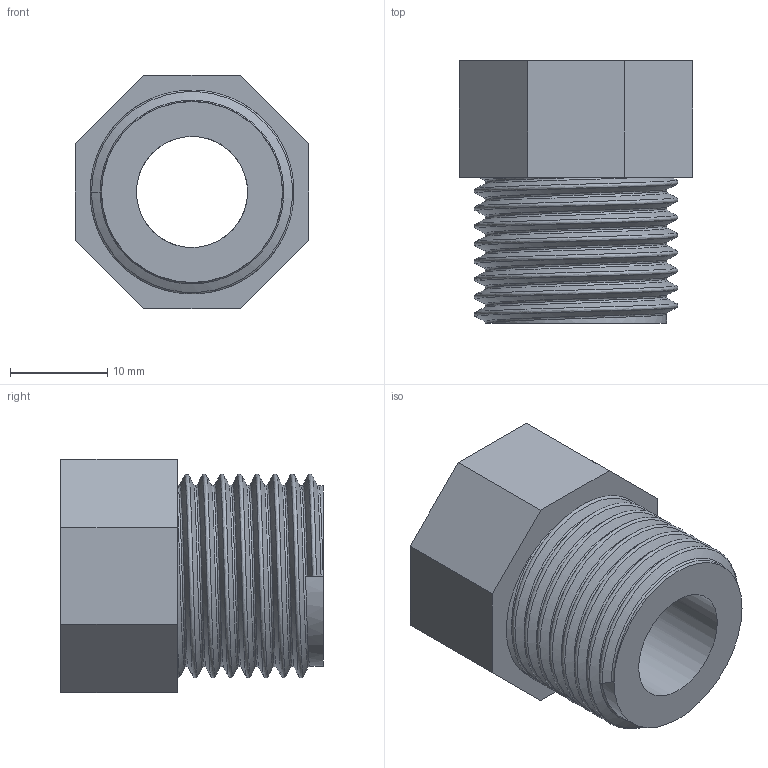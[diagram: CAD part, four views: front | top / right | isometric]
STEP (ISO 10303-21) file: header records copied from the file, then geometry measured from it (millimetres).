
FILE_DESCRIPTION(/* description */ ('PVC riduzione filettata BSP maschio-femmina'),/* implementation_level */ '2;1');
FILE_NAME(/* name */ 'C:\Users\POLYPIPE\Desktop\DATASET INVENTOR\LIBRERIA EFFAST\RACCORDI 3DxWEB\RER\3D_RERRCE\3D_RERRCE020A.stp',/* time_stamp */ '2018-01-19T16:57:48+01:00',/* author */ ('POLYPIPE'),/* organization */ ('Polypipe Italia s.r.l.'),/* preprocessor_version */ 'ST-DEVELOPER v16.1',/* originating_system */ 'Autodesk Inventor 2016',/* authorisation */ '');
FILE_SCHEMA (('CONFIG_CONTROL_DESIGN'));
Length unit declared in the file: millimetre
Products named in the file (1): 3D_RERRCE
Bounding box: 24 x 27 x 24 mm (x, y, z)
Volume: 7366 mm3; surface area: 4500.2 mm2
Topology: 1 solids, 1 shells, 25 faces, 62 edges, 40 vertices
Faces by surface type: plane 13, bspline 10, cylinder 2
Full cylindrical faces by diameter (mm): 11.445 x1, 18.631 x1
Entity records: 7004 total; most frequent: CARTESIAN_POINT 6457, ORIENTED_EDGE 120, DIRECTION 78, EDGE_CURVE 60, VERTEX_POINT 39, LINE 30, VECTOR 30, EDGE_LOOP 29
